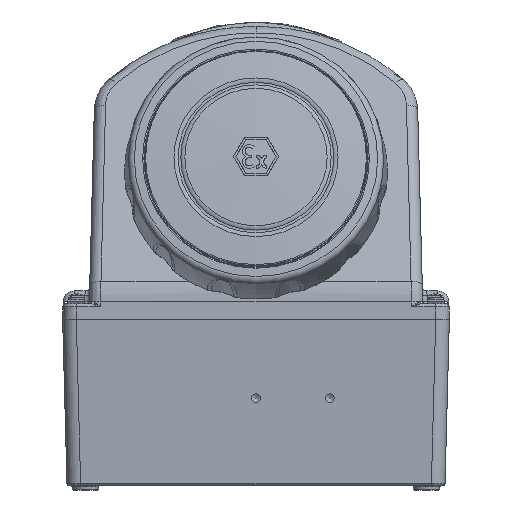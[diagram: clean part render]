
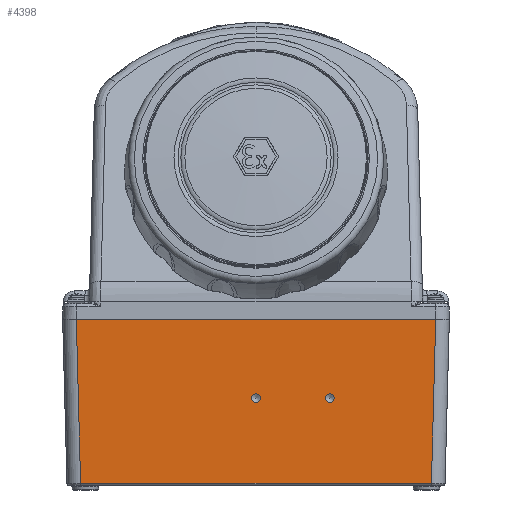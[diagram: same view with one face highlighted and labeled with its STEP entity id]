
A CAD part, front view. The second image highlights one B-rep face of the part: STEP entity #4398.
In plain terms, the highlighted planar face has unit normal (0, -1, -0.026).
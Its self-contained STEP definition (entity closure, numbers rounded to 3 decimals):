
#3807=FACE_BOUND('',#5440,.T.);
#3808=FACE_BOUND('',#5441,.T.);
#3809=FACE_BOUND('',#5442,.T.);
#4398=ADVANCED_FACE('',(#3807,#3808,#3809),#4653,.T.);
#4653=PLANE('',#13699);
#5440=EDGE_LOOP('',(#8581,#8582,#8583,#8584));
#5441=EDGE_LOOP('',(#8585));
#5442=EDGE_LOOP('',(#8586));
#5943=CIRCLE('',#13697,1.897);
#5944=CIRCLE('',#13698,1.897);
#6500=LINE('',#25181,#6959);
#6501=LINE('',#25184,#6960);
#6502=LINE('',#25186,#6961);
#6503=LINE('',#25188,#6962);
#6959=VECTOR('',#15460,1.);
#6960=VECTOR('',#15461,1.);
#6961=VECTOR('',#15462,1.);
#6962=VECTOR('',#15463,1.);
#8581=ORIENTED_EDGE('',*,*,#11826,.T.);
#8582=ORIENTED_EDGE('',*,*,#11827,.F.);
#8583=ORIENTED_EDGE('',*,*,#11828,.F.);
#8584=ORIENTED_EDGE('',*,*,#11829,.T.);
#8585=ORIENTED_EDGE('',*,*,#11830,.T.);
#8586=ORIENTED_EDGE('',*,*,#11831,.T.);
#10304=VERTEX_POINT('',#25182);
#10305=VERTEX_POINT('',#25183);
#10306=VERTEX_POINT('',#25185);
#10307=VERTEX_POINT('',#25187);
#10308=VERTEX_POINT('',#25190);
#10309=VERTEX_POINT('',#25192);
#11826=EDGE_CURVE('',#10304,#10305,#6500,.T.);
#11827=EDGE_CURVE('',#10306,#10305,#6501,.T.);
#11828=EDGE_CURVE('',#10307,#10306,#6502,.T.);
#11829=EDGE_CURVE('',#10307,#10304,#6503,.T.);
#11830=EDGE_CURVE('',#10308,#10308,#5943,.T.);
#11831=EDGE_CURVE('',#10309,#10309,#5944,.T.);
#13697=AXIS2_PLACEMENT_3D('',#25189,#15464,#15465);
#13698=AXIS2_PLACEMENT_3D('',#25191,#15466,#15467);
#13699=AXIS2_PLACEMENT_3D('',#25193,#15468,#15469);
#15460=DIRECTION('',(0.026,0.026,-0.999));
#15461=DIRECTION('',(-1.,0.,0.));
#15462=DIRECTION('',(-0.026,0.026,-0.999));
#15463=DIRECTION('',(-1.,0.,0.));
#15464=DIRECTION('',(0.,1.,0.026));
#15465=DIRECTION('',(1.,0.,0.));
#15466=DIRECTION('',(0.,1.,0.026));
#15467=DIRECTION('',(1.,0.,0.));
#15468=DIRECTION('',(0.,-1.,-0.026));
#15469=DIRECTION('',(1.,0.,0.));
#25181=CARTESIAN_POINT('',(-79.002,-165.,0.));
#25182=CARTESIAN_POINT('',(-79.002,-165.,0.));
#25183=CARTESIAN_POINT('',(-77.116,-163.114,-72.026));
#25184=CARTESIAN_POINT('',(79.002,-163.114,-72.026));
#25185=CARTESIAN_POINT('',(77.116,-163.114,-72.026));
#25186=CARTESIAN_POINT('',(79.002,-165.,0.));
#25187=CARTESIAN_POINT('',(79.002,-165.,0.));
#25188=CARTESIAN_POINT('',(79.002,-165.,0.));
#25189=CARTESIAN_POINT('',(0.,-164.094,-34.607));
#25190=CARTESIAN_POINT('',(1.897,-164.094,-34.607));
#25191=CARTESIAN_POINT('',(32.5,-164.094,-34.607));
#25192=CARTESIAN_POINT('',(34.397,-164.094,-34.607));
#25193=CARTESIAN_POINT('',(79.002,-165.,0.));
